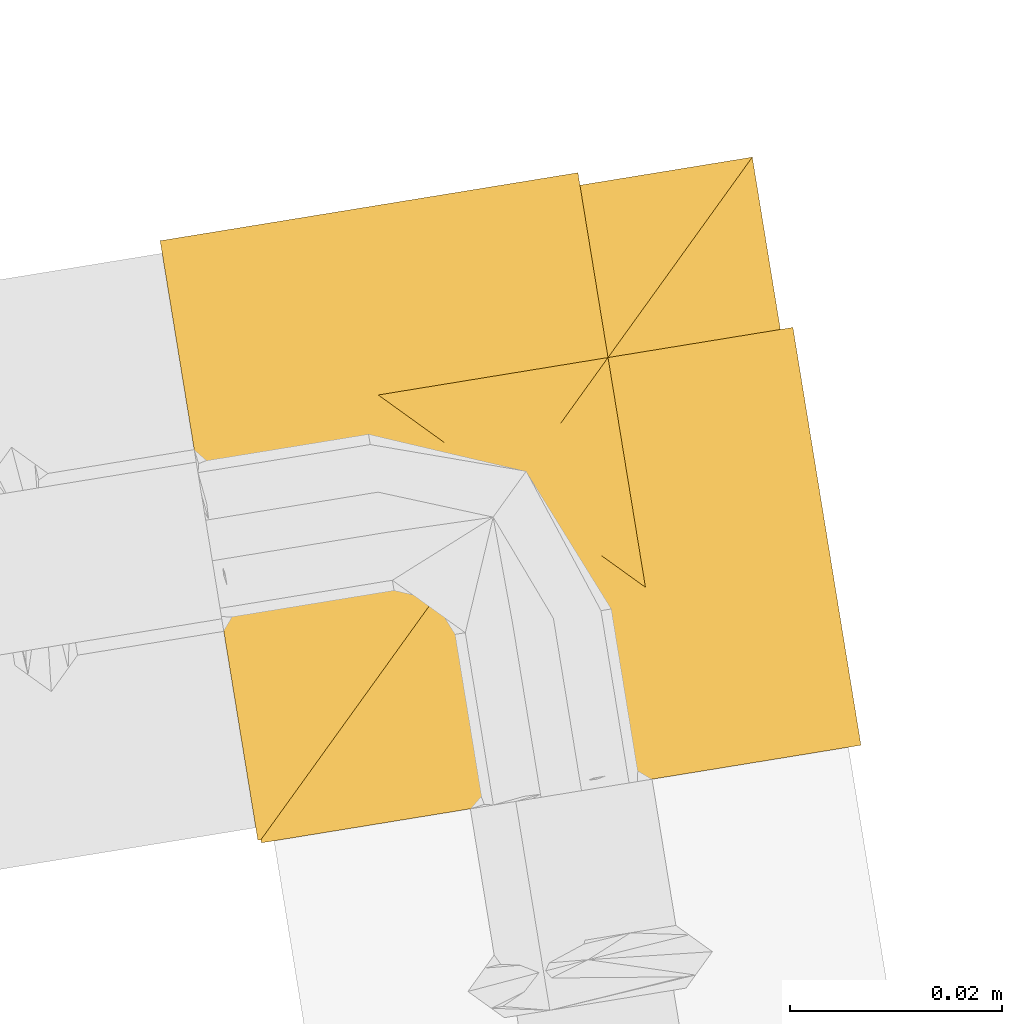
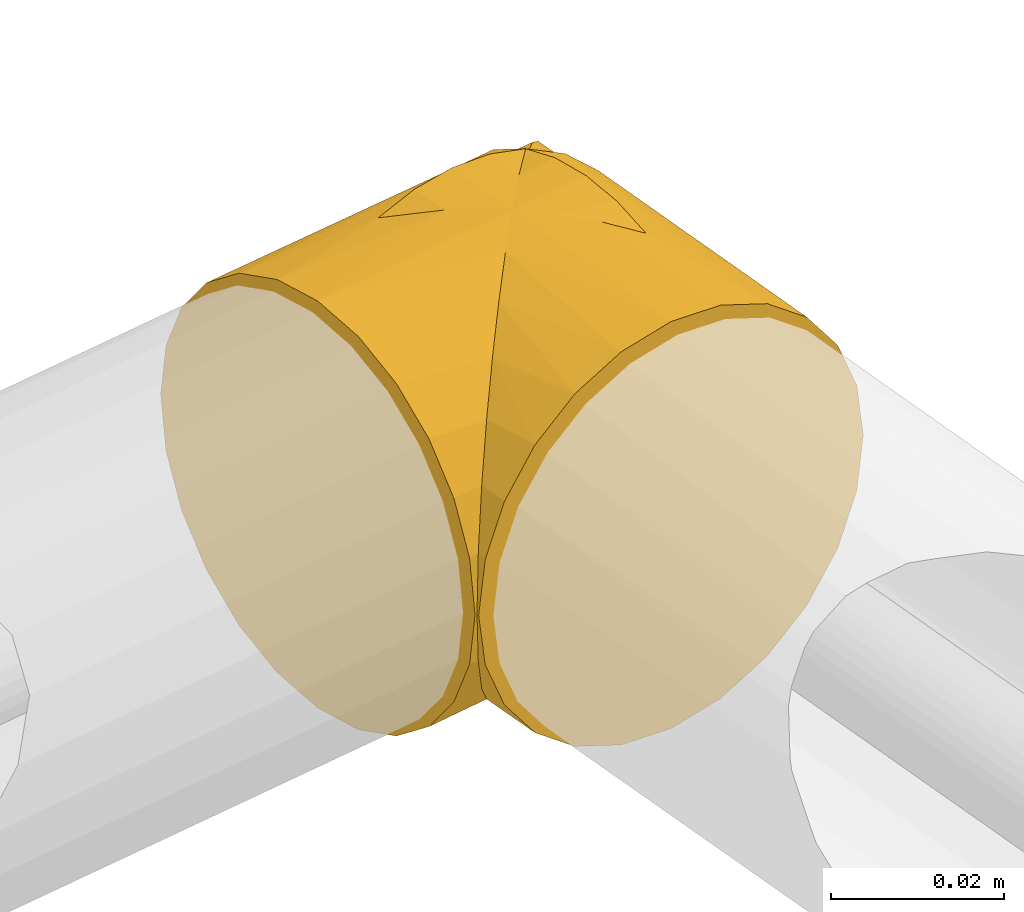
# One storey, part 15 of 46: 1 covering.
"""IFC2X3 building model written with IfcOpenShell, lengths in millimetres."""

from ifc_helpers import new_model, entity, si_unit, converted_unit, derived_unit, direction, frame, origin, origin_with_axes, place, context, subcontext, project, spatial, faceted_brep, material, type_object, element, save


model = new_model("IFC2X3")

# Units and contexts
model_context = context("Model", 3, precision=0.01, world=origin(), true_north=direction((6.12323399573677e-17, 1.0)))
plan_context = context("Plan", 3, precision=1e-05, world=origin_with_axes())
body_context = subcontext(model_context, "Body", "Model", "MODEL_VIEW")
ifc_project = project(units=[converted_unit("PLANEANGLEUNIT", "DEGREE", entity("IfcPositiveLengthMeasure", 0.0174532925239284), si_unit("PLANEANGLEUNIT", "RADIAN"), dimensions=[0, 0, 0, 0, 0, 0, 0]), si_unit("AREAUNIT", "SQUARE_METRE"), si_unit("LENGTHUNIT", "METRE", prefix="MILLI"), si_unit("MASSUNIT", "GRAM", prefix="KILO"), si_unit("POWERUNIT", "WATT"), si_unit("PRESSUREUNIT", "PASCAL", prefix="KILO"), si_unit("FORCEUNIT", "NEWTON", prefix="KILO"), si_unit("ELECTRICVOLTAGEUNIT", "VOLT"), si_unit("ELECTRICCURRENTUNIT", "AMPERE"), si_unit("THERMODYNAMICTEMPERATUREUNIT", "DEGREE_CELSIUS"), si_unit("TIMEUNIT", "SECOND"), si_unit("VOLUMEUNIT", "CUBIC_METRE"), derived_unit("LINEARVELOCITYUNIT", [(si_unit("LENGTHUNIT", "METRE"), 1), (si_unit("TIMEUNIT", "SECOND"), -1)]), derived_unit("VOLUMETRICFLOWRATEUNIT", [(si_unit("VOLUMEUNIT", "CUBIC_METRE"), 1), (si_unit("TIMEUNIT", "SECOND"), -1)]), derived_unit("THERMALTRANSMITTANCEUNIT", [(si_unit("POWERUNIT", "WATT"), 1), (si_unit("THERMODYNAMICTEMPERATUREUNIT", "KELVIN"), -1), (si_unit("AREAUNIT", "SQUARE_METRE"), -1)]), derived_unit("SOUNDPRESSUREUNIT", [(si_unit("PRESSUREUNIT", "PASCAL"), 1)])], contexts=[model_context, plan_context])

# Site, building, storey
site_placement = place(None, frame((-3.09682673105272e-06, 1.93776733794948e-05, 0.0), z_axis=(0.0, 0.0, 1.0), x_axis=(-0.160806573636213, 0.986985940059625, 0.0)))
site = spatial("IfcSite", under=ifc_project, at=site_placement, Name="Default", CompositionType="ELEMENT")
building_placement = place(site_placement, frame((0.0, 0.0, 0.0), z_axis=(0.0, 0.0, 1.0), x_axis=(1.0, -2.77555756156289e-17, 0.0)))
building = spatial("IfcBuilding", under=site, at=building_placement, Name="Bygning (endres i Project Information)", CompositionType="ELEMENT")
storey_placement = place(building_placement, frame((0.0, 0.0, 51360.0000000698), z_axis=(0.0, 0.0, 1.0), x_axis=(1.0, -2.77555756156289e-17, 0.0)))
storey = spatial("IfcBuildingStorey", under=building, at=storey_placement, Name="H01-Nivå D+0,36", CompositionType="ELEMENT", Elevation=51360.0000000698)

# Covering
ifc_material = material(Name="3200.002 Retur")
covering_type = type_object("IfcCoveringType", Name="Pipe Insulation:GLAVA Rørskål ClimPipe Alu2, isol.kl.4, 45°C", PredefinedType="INSULATION")
covering_placement = place(storey_placement, frame((1008456.80431555, -353671.375411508, 3419.70472776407), z_axis=(0.0, 0.0, 1.0), x_axis=(1.0, -2.77555756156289e-17, 0.0)))
element("IfcCovering", 1, at=covering_placement, inside=storey, type_object=covering_type, material=ifc_material, Name="Pipe Insulation:GLAVA Rørskål ClimPipe Alu2, isol.kl.4, 45°C", ObjectType="Pipe Insulation:GLAVA Rørskål ClimPipe Alu2, isol.kl.4, 45°C", PredefinedType="INSULATION", context=body_context, shape_type="Brep", body=[
    faceted_brep([(35.8488827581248, 35.8488827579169, 2.13772599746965), (30.2952722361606, 59.2952722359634, 1.5952722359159), (37.7233788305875, 59.2952722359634, 2.57320102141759), (41.2952722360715, 41.2952722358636, 3.78697164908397), (44.645272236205, 59.2952722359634, 5.44034314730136), (47.1749614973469, 19.2952722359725, 7.08393684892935), (37.4578629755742, 37.457862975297, 2.62494852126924), (30.2952722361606, 30.2952722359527, 1.5952722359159), (35.8488827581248, 24.7416617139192, 2.13772599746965), (30.2952722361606, 19.2952722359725, 1.5952722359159), (30.2952722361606, 24.4496807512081, 1.5952722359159), (41.2952722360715, 19.2952722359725, 3.78697164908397), (50.5892368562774, 59.2952722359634, 10.0013076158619), (52.1237458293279, 19.2952722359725, 11.6617610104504), (55.1502013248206, 59.2952722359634, 15.945272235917), (55.8686217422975, 19.2952722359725, 17.2686151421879), (58.0173434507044, 59.2952722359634, 22.8671656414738), (58.2021544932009, 19.2952722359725, 23.5948302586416), (58.9952722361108, 59.2952722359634, 30.295272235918), (58.9952722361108, 19.2952722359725, 30.295272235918), (58.2021544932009, 19.2952722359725, 36.9957142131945), (58.0173434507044, 59.2952722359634, 37.7233788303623), (55.1502013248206, 59.2952722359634, 44.6452722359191), (50.5892368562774, 59.2952722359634, 50.5892368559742), (52.1237458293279, 19.2952722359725, 48.9287834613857), (55.8686217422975, 19.2952722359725, 43.3219293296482), (47.1749614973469, 19.2952722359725, 53.5066076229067), (44.645272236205, 59.2952722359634, 55.1502013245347), (41.2952722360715, 41.2952722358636, 56.8035728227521), (37.7233788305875, 59.2952722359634, 58.0173434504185), (35.8488827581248, 35.8488827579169, 58.4528184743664), (37.457862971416, 37.4578629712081, 57.965595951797), (30.2952722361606, 59.2952722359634, 58.9952722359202), (41.2952722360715, 19.2952722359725, 56.8035728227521), (30.2952722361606, 30.2952722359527, 58.9952722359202), (35.8488827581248, 24.7416617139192, 58.4528184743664), (30.2952722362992, 24.4496807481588, 58.9952722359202), (30.2952722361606, 19.2952722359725, 58.9952722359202), (24.7843162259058, 35.8062282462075, 58.4611978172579), (22.8671656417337, 59.2952722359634, 58.0173434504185), (2.93159378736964, 59.2952722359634, 38.5886155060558), (2.63637773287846, 57.9541667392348, 37.9552692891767), (2.98876332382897, 57.6017811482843, 38.7947891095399), (3.28998655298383, 59.2952722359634, 39.4538521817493), (19.3782398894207, 41.2123045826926, 56.8378494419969), (15.9452722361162, 59.2952722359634, 55.1502013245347), (2.45095992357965, 59.2952722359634, 36.7948655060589), (2.44117045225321, 58.1493740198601, 36.5190198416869), (2.50623954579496, 58.0843049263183, 36.9977696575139), (2.26759827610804, 59.2952722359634, 35.4020955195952), (2.24596317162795, 58.3445813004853, 35.0827703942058), (2.31103226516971, 58.2795122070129, 35.5615202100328), (14.2100303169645, 46.3805141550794, 54.0640541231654), (2.38983937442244, 59.2952722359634, 36.3306088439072), (2.37610135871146, 58.2144431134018, 36.0402700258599), (10.0013076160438, 59.2952722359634, 50.5892368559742), (2.1808940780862, 58.4096503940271, 34.6040205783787), (2.20647772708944, 59.2952722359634, 34.9378388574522), (2.14535717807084, 59.2952722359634, 34.4735821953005), (5.44034314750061, 59.2952722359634, 44.6452722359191), (9.4695902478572, 51.1209542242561, 50.0432080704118), (4.00677208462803, 59.2952722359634, 41.1843255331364), (3.34114891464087, 57.2493955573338, 39.6343089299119), (4.04592009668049, 56.5446243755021, 41.3133485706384), (2.57320102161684, 59.2952722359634, 37.7233788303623), (2.08423662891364, 59.2952722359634, 34.0093255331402), (2.0507558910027, 58.5397885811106, 33.6465209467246), (2.11582498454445, 58.4747194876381, 34.1252707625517), (1.83975443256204, 59.2952722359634, 32.1522988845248), (1.79047951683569, 58.8000649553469, 31.7315216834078), (1.85554861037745, 58.7349958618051, 32.2102714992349), (5.45546246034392, 55.1350820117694, 44.6714278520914), (2.32871882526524, 59.2952722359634, 35.8663521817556), (1.71751333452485, 59.2952722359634, 31.2237855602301), (1.6603413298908, 58.9302031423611, 30.7740220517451), (1.72541042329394, 58.8651340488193, 31.2527718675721), (1.90087498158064, 59.2952722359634, 32.6165555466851), (1.98568679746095, 58.6048576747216, 33.1677711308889), (2.02311607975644, 59.2952722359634, 33.5450688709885), (1.96199553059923, 59.2952722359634, 33.0808122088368), (1.92061770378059, 58.6699267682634, 32.6890213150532), (1.65639278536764, 59.2952722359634, 30.7595288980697), (1.59527223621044, 58.9952722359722, 30.295272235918), (1.77863388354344, 59.2952722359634, 31.6880422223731), (1.59527223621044, 59.2952722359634, 30.295272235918), (41.2952722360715, 2.38839243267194, 23.5948200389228), (1.29527223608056, 1.59527223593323, 30.295272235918), (1.29527223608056, 2.57320102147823, 22.8671656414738), (41.2952722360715, 4.72193232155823, 17.2685963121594), (1.29527223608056, 5.440343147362, 15.945272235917), (41.2952722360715, 8.46681925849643, 11.6617368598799), (1.29527223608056, 10.0013076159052, 10.0013076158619), (41.2952722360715, 1.59527223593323, 30.295272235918), (41.2952722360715, 13.4156172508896, 7.08391192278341), (1.29527223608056, 15.9452722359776, 5.44034314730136), (19.2952722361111, 19.2952722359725, 3.78697164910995), (1.29527223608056, 22.8671656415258, 2.57320102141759), (22.9078197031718, 22.9078197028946, 2.56233973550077), (26.5860346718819, 26.586034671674, 1.8359757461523), (1.29527223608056, 30.2952722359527, 1.5952722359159), (41.2952722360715, 19.2952722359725, 55.4994385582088), (46.7924480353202, 19.2952722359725, 52.297390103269), (51.4067482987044, 19.2952722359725, 47.9178594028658), (54.891230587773, 19.2952722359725, 42.5952247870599), (57.0594166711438, 19.2952722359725, 36.6143364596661), (57.7952722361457, 19.2952722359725, 30.295272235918), (57.0594166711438, 19.2952722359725, 23.97620801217), (54.891230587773, 19.2952722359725, 17.9953196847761), (51.4067482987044, 19.2952722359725, 12.6726850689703), (46.7924480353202, 19.2952722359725, 8.29315436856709), (41.2952722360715, 19.2952722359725, 5.09110591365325), (19.2952722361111, 19.2952722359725, 56.8035728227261), (35.9131570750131, 19.2952722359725, 58.4400651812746), (24.6773873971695, 19.2952722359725, 58.4400651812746), (35.9131570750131, 19.2952722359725, 2.15047929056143), (24.6773873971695, 19.2952722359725, 2.15047929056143), (24.7843162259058, 35.8062282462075, 2.12934665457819), (1.29527223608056, 37.7233788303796, 2.57320102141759), (1.29527223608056, 58.3840667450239, 25.6527056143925), (2.1808940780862, 58.4096503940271, 25.9865238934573), (2.24596317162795, 58.3445813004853, 25.5077740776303), (1.29527223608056, 58.2618256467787, 24.7241922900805), (2.31103226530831, 58.2795122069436, 25.0290242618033), (2.37610135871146, 58.2144431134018, 24.5502744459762), (19.3782398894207, 41.2123045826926, 3.75269502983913), (1.29527223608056, 44.6452722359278, 5.44034314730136), (1.29527223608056, 58.2007050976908, 24.2599356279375), (2.44117045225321, 58.1493740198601, 24.0715246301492), (1.29527223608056, 57.3005579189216, 21.1366922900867), (2.98876332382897, 57.6017811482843, 21.7957553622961), (3.34114891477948, 57.2493955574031, 20.9562355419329), (14.2100303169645, 46.3805141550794, 6.52649034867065), (2.11582498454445, 58.4747194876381, 26.4652737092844), (1.29527223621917, 58.4451872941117, 26.1169622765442), (1.29527223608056, 58.5063078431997, 26.5812189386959), (1.29527223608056, 50.5892368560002, 10.0013076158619), (9.4695902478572, 51.1209542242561, 10.5473364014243), (1.29527223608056, 55.1502013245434, 15.945272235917), (1.29527223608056, 57.6589506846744, 22.0019289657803), (2.63637773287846, 57.9541667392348, 22.6352751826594), (1.29527223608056, 58.0173434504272, 22.8671656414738), (1.29527223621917, 58.1395845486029, 23.7956789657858), (2.50623954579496, 58.0843049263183, 23.5927748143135), (2.0507558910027, 58.5397885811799, 26.9440235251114), (1.29527223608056, 58.7507900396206, 28.4382455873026), (1.79047951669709, 58.8000649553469, 28.8590227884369), (1.85554861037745, 58.7349958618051, 28.3802729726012), (5.45546246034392, 55.1350820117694, 15.9191166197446), (4.04592009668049, 56.5446243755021, 19.2771959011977), (1.29527223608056, 56.5837723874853, 19.4062189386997), (1.29527223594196, 58.322946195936, 25.1884489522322), (1.29527223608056, 58.8730311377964, 29.3667589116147), (1.66034132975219, 58.9302031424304, 29.816522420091), (1.72541042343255, 58.8651340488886, 29.337772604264), (1.29527223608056, 58.6896694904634, 27.9739889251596), (1.98568679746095, 58.6048576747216, 27.4227733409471), (1.29527223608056, 58.5674283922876, 27.0454756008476), (1.29527223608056, 58.6285489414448, 27.5097322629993), (1.9206177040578, 58.6699267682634, 27.9015231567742), (1.29527223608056, 58.9341516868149, 29.8310155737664), (1.29527223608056, 58.8119105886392, 28.902502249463), (1.29527223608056, 58.9952722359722, 30.295272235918), (1.29527223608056, 58.1395845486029, 36.7948655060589), (1.29527223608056, 58.0173434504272, 37.7233788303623), (1.29527223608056, 57.3005579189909, 39.4538521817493), (1.29527223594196, 57.6589506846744, 38.5886155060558), (1.29527223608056, 55.1502013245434, 44.6452722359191), (1.29527223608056, 56.5837723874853, 41.1843255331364), (1.29527223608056, 58.5674283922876, 33.5450688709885), (1.29527223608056, 58.5063078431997, 34.0093255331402), (1.29527223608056, 58.3840667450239, 34.9378388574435), (1.29527223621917, 58.322946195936, 35.4020955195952), (1.29527223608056, 58.2007050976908, 36.3306088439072), (1.29527223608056, 50.5892368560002, 50.5892368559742), (1.29527223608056, 44.6452722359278, 55.1502013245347), (1.29527223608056, 37.7233788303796, 58.0173434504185), (1.29527223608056, 30.2952722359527, 58.9952722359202), (1.29527223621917, 58.8119105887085, 31.6880422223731), (1.29527223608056, 58.7507900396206, 32.1522988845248), (1.29527223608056, 58.4451872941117, 34.4735821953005), (1.29527223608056, 58.2618256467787, 35.8663521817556), (1.29527223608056, 58.6285489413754, 33.0808122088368), (1.29527223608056, 58.9341516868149, 30.7595288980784), (1.29527223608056, 58.8730311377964, 31.2237855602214), (1.29527223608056, 58.6896694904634, 32.6165555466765), (41.2952722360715, 13.7980964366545, 8.29315436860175), (41.2952722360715, 9.18379617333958, 12.6726850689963), (41.2952722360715, 5.69931388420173, 17.9953196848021), (41.2952722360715, 3.53112780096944, 23.9762080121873), (41.2952722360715, 2.7952722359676, 30.295272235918), (41.2952722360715, 3.53112780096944, 36.6143364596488), (41.2952722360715, 5.69931388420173, 42.5952247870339), (41.2952722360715, 9.18379617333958, 47.9178594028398), (41.2952722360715, 13.7980964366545, 52.2973901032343), (41.2952722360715, 13.4156172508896, 53.5066325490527), (41.2952722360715, 8.46681925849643, 48.9288076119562), (41.2952722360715, 4.72193232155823, 43.3219481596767), (41.2952722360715, 2.38839243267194, 36.9957244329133), (41.2952722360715, 35.9131570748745, 58.4400651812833), (41.2952722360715, 30.2952722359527, 58.9952722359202), (41.2952722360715, 24.6774131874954, 58.4400703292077), (41.2952722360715, 24.6774131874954, 2.15047414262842), (41.2952722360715, 30.2952722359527, 1.5952722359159), (41.2952722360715, 35.9131570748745, 2.15047929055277), (26.5860346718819, 26.586034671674, 58.7545687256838), (1.29527223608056, 22.8671656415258, 58.0173434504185), (1.29527223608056, 15.9452722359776, 55.1502013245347), (22.9078197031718, 22.9078197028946, 58.0282047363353), (1.29527223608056, 10.0013076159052, 50.5892368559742), (1.29527223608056, 5.440343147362, 44.6452722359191), (1.29527223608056, 2.57320102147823, 37.7233788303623), (37.4578628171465, 23.1326816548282, 57.9655959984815), (37.4578629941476, 23.1326814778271, 2.62494852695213), (22.8671656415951, 59.2952722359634, 2.57320102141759), (15.9452722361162, 59.2952722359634, 5.44034314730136), (10.0013076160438, 59.2952722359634, 10.0013076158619), (5.44034314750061, 59.2952722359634, 15.945272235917), (4.00677208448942, 59.2952722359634, 19.406218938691), (3.28998655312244, 59.2952722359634, 21.1366922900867), (2.93159378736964, 59.2952722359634, 22.0019289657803), (2.57320102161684, 59.2952722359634, 22.8671656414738), (2.45095992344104, 59.2952722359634, 23.7956789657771), (2.38983937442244, 59.2952722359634, 24.2599356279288), (2.32871882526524, 59.2952722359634, 24.7241922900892), (2.26759827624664, 59.2952722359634, 25.1884489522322), (2.20647772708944, 59.2952722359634, 25.6527056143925), (2.14535717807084, 59.2952722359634, 26.1169622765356), (2.08423662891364, 59.2952722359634, 26.5812189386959), (2.02311607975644, 59.2952722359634, 27.0454756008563), (1.96199553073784, 59.2952722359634, 27.5097322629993), (1.90087498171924, 59.2952722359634, 27.9739889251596), (1.83975443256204, 59.2952722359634, 28.4382455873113), (1.77863388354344, 59.2952722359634, 28.902502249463), (1.71751333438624, 59.2952722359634, 29.3667589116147), (1.65639278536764, 59.2952722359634, 29.8310155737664), (57.7952722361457, 2.7952722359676, 30.295272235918), (57.0592658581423, 3.53127861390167, 36.6149751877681), (54.890283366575, 5.70026110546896, 42.5971187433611), (51.404818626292, 9.18572584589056, 47.9201708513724), (46.7907227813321, 13.7998216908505, 52.2986835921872), (46.7907227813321, 13.7998216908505, 8.29186087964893), (51.404818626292, 9.18572584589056, 12.6703736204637), (54.890283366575, 5.70026110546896, 17.993425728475), (57.0592658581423, 3.53127861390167, 23.975569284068)], [[[0, 1, 2]], [[3, 4, 5]], [[4, 3, 2]], [[2, 3, 6, 0]], [[0, 7, 1]], [[8, 9, 10, 7]], [[3, 5, 11]], [[4, 12, 5]], [[13, 12, 14]], [[15, 14, 16]], [[17, 16, 18]], [[13, 14, 15]], [[15, 16, 17]], [[18, 19, 17]], [[12, 13, 5]], [[20, 18, 21]], [[22, 23, 24]], [[25, 21, 22]], [[19, 18, 20]], [[24, 25, 22]], [[21, 25, 20]], [[23, 26, 24]], [[27, 28, 26]], [[28, 27, 29]], [[29, 30, 31, 28]], [[30, 29, 32]], [[26, 28, 33]], [[34, 30, 32]], [[35, 34, 36, 37]], [[27, 26, 23]], [[38, 32, 39]], [[40, 41, 42]], [[42, 43, 40]], [[44, 39, 45]], [[46, 47, 48]], [[38, 34, 32]], [[49, 50, 51]], [[52, 44, 45]], [[38, 39, 44]], [[53, 54, 47]], [[45, 55, 52]], [[56, 57, 58]], [[55, 59, 60]], [[61, 62, 63]], [[40, 64, 41]], [[43, 42, 62]], [[62, 61, 43]], [[65, 66, 67]], [[68, 69, 70]], [[71, 60, 59]], [[59, 63, 71]], [[48, 41, 64]], [[61, 63, 59]], [[67, 58, 65]], [[72, 51, 54]], [[55, 60, 52]], [[57, 56, 50]], [[48, 64, 46]], [[50, 49, 57]], [[54, 53, 72]], [[73, 74, 75]], [[58, 67, 56]], [[70, 76, 68]], [[77, 78, 79]], [[47, 46, 53]], [[51, 72, 49]], [[80, 79, 76]], [[78, 77, 66]], [[79, 80, 77]], [[66, 65, 78]], [[81, 82, 74]], [[75, 83, 73]], [[76, 70, 80]], [[83, 75, 69]], [[69, 68, 83]], [[82, 81, 84]], [[74, 73, 81]], [[85, 86, 87]], [[88, 87, 89]], [[90, 89, 91]], [[85, 92, 86]], [[88, 85, 87]], [[89, 90, 88]], [[91, 93, 90]], [[94, 95, 93]], [[95, 94, 96]], [[95, 96, 97]], [[98, 96, 99]], [[93, 95, 11]], [[98, 97, 96]], [[7, 98, 99]], [[94, 93, 91]], [[15, 17, 19, 20, 25, 24, 26, 33, 100, 101, 102, 103, 104, 105, 106, 107, 108, 109, 110, 11, 5, 13]], [[111, 33, 112, 37, 113]], [[9, 114, 11, 95, 115]], [[116, 99, 117]], [[118, 119, 120]], [[121, 122, 123]], [[124, 117, 125]], [[126, 123, 127]], [[116, 7, 99]], [[128, 129, 130]], [[131, 124, 125]], [[116, 117, 124]], [[132, 133, 134]], [[125, 135, 131]], [[119, 118, 133]], [[136, 135, 137]], [[138, 139, 129]], [[139, 138, 140]], [[129, 128, 138]], [[141, 127, 142]], [[134, 143, 132]], [[144, 145, 146]], [[147, 136, 137]], [[137, 148, 147]], [[142, 139, 140]], [[149, 148, 137]], [[149, 130, 148]], [[150, 120, 122]], [[135, 136, 131]], [[142, 140, 141]], [[130, 149, 128]], [[120, 150, 118]], [[123, 126, 121]], [[151, 152, 153]], [[133, 132, 119]], [[146, 154, 144]], [[155, 156, 157]], [[127, 141, 126]], [[122, 121, 150]], [[158, 157, 154]], [[156, 155, 143]], [[157, 158, 155]], [[143, 134, 156]], [[159, 82, 152]], [[153, 160, 151]], [[154, 146, 158]], [[160, 153, 145]], [[145, 144, 160]], [[82, 159, 161]], [[152, 151, 159]], [[95, 97, 115]], [[98, 7, 10]], [[115, 97, 98]], [[10, 9, 115]], [[10, 115, 98]], [[48, 162, 163]], [[164, 42, 165]], [[166, 63, 167]], [[166, 71, 63]], [[167, 63, 62]], [[168, 169, 66]], [[50, 170, 171]], [[60, 71, 166]], [[41, 165, 42]], [[172, 162, 47]], [[166, 173, 60]], [[170, 50, 56]], [[52, 173, 174]], [[164, 62, 42]], [[174, 175, 44]], [[167, 62, 164]], [[41, 163, 165]], [[176, 38, 175]], [[177, 178, 69]], [[44, 52, 174]], [[56, 67, 179]], [[34, 38, 176]], [[44, 175, 38]], [[163, 41, 48]], [[67, 169, 179]], [[173, 52, 60]], [[51, 171, 180]], [[172, 54, 180]], [[170, 56, 179]], [[181, 77, 80]], [[162, 48, 47]], [[180, 54, 51]], [[77, 181, 168]], [[169, 67, 66]], [[50, 171, 51]], [[54, 172, 47]], [[74, 182, 183]], [[184, 80, 70]], [[77, 168, 66]], [[70, 178, 184]], [[75, 183, 177]], [[178, 70, 69]], [[181, 80, 184]], [[182, 82, 161]], [[75, 177, 69]], [[183, 75, 74]], [[82, 182, 74]], [[11, 110, 185, 186, 187, 188, 189, 190, 191, 192, 193, 100, 33, 194, 195, 196, 197, 92, 85, 88, 90, 93]], [[33, 28, 198, 199, 200]], [[201, 202, 203, 3, 11]], [[204, 176, 205]], [[33, 111, 194]], [[206, 111, 205]], [[207, 205, 111]], [[204, 34, 176]], [[204, 205, 207]], [[111, 206, 194]], [[195, 208, 209]], [[196, 209, 210]], [[197, 210, 86]], [[194, 208, 195]], [[196, 195, 209]], [[210, 197, 196]], [[86, 92, 197]], [[208, 194, 206]], [[175, 174, 173, 163, 162, 172, 180, 171, 170, 179, 169, 168, 181, 184, 178, 177, 183, 182, 161, 159, 151, 160, 144, 154, 157, 156, 134, 138, 128, 149, 137, 135, 125, 117, 99, 96, 94, 91, 89, 87, 86, 210, 209, 208, 206, 205, 176]], [[173, 166, 167, 164, 165]], [[138, 121, 126]], [[138, 141, 140]], [[198, 28, 31, 30]], [[30, 34, 199]], [[30, 199, 198]], [[199, 34, 35]], [[211, 33, 200, 35]], [[35, 200, 199]], [[201, 11, 212, 8]], [[8, 7, 202]], [[8, 202, 201]], [[202, 7, 0]], [[6, 3, 203, 0]], [[0, 203, 202]], [[29, 27, 23, 22, 21, 18, 16, 14, 12, 4, 2, 1, 213, 214, 215, 216, 217, 218, 219, 220, 221, 222, 223, 224, 225, 226, 227, 228, 229, 230, 231, 232, 233, 234, 84, 81, 73, 83, 68, 76, 79, 78, 65, 58, 57, 49, 72, 53, 46, 64, 40, 43, 61, 59, 55, 45, 39, 32]], [[112, 33, 211, 35]], [[35, 37, 112]], [[36, 34, 204]], [[36, 113, 37]], [[113, 207, 111]], [[207, 113, 204]], [[113, 36, 204]], [[142, 221, 220]], [[122, 224, 223]], [[132, 227, 226]], [[216, 147, 148]], [[217, 148, 130]], [[228, 227, 143]], [[120, 225, 224]], [[136, 147, 216]], [[139, 219, 129]], [[218, 130, 129]], [[216, 215, 136]], [[119, 132, 226]], [[131, 215, 214]], [[216, 148, 217]], [[213, 1, 116]], [[139, 220, 219]], [[217, 130, 218]], [[124, 214, 213]], [[220, 139, 142]], [[124, 131, 214]], [[232, 231, 145]], [[7, 116, 1]], [[124, 213, 116]], [[222, 221, 127]], [[225, 120, 119]], [[215, 131, 136]], [[222, 123, 223]], [[218, 129, 219]], [[225, 119, 226]], [[229, 155, 158]], [[221, 142, 127]], [[223, 123, 122]], [[155, 229, 228]], [[227, 132, 143]], [[120, 224, 122]], [[123, 222, 127]], [[152, 234, 233]], [[230, 158, 146]], [[155, 228, 143]], [[146, 231, 230]], [[153, 233, 232]], [[231, 146, 145]], [[229, 158, 230]], [[234, 82, 84]], [[153, 232, 145]], [[233, 153, 152]], [[82, 234, 152]], [[212, 11, 114, 8]], [[8, 114, 9]], [[235, 236, 189]], [[190, 189, 236]], [[237, 191, 190]], [[190, 236, 237]], [[191, 238, 192]], [[192, 238, 239]], [[239, 193, 192]], [[193, 239, 100]], [[238, 191, 237]], [[240, 241, 186]], [[185, 110, 240]], [[186, 185, 240]], [[241, 187, 186]], [[188, 242, 243]], [[189, 243, 235]], [[188, 187, 242]], [[189, 188, 243]], [[242, 187, 241]], [[236, 104, 237]], [[235, 105, 236]], [[236, 105, 104]], [[104, 103, 237]], [[101, 100, 239]], [[102, 101, 239]], [[238, 237, 103]], [[238, 102, 239]], [[238, 103, 102]], [[109, 108, 240]], [[109, 240, 110]], [[240, 108, 241]], [[108, 107, 241]], [[106, 105, 243]], [[107, 106, 242]], [[106, 243, 242]], [[243, 105, 235]], [[107, 242, 241]], [[173, 165, 163]], [[138, 134, 133]], [[138, 133, 118, 150]], [[138, 150, 121]], [[138, 126, 141]]]),
])

save(model, "model.ifc")
